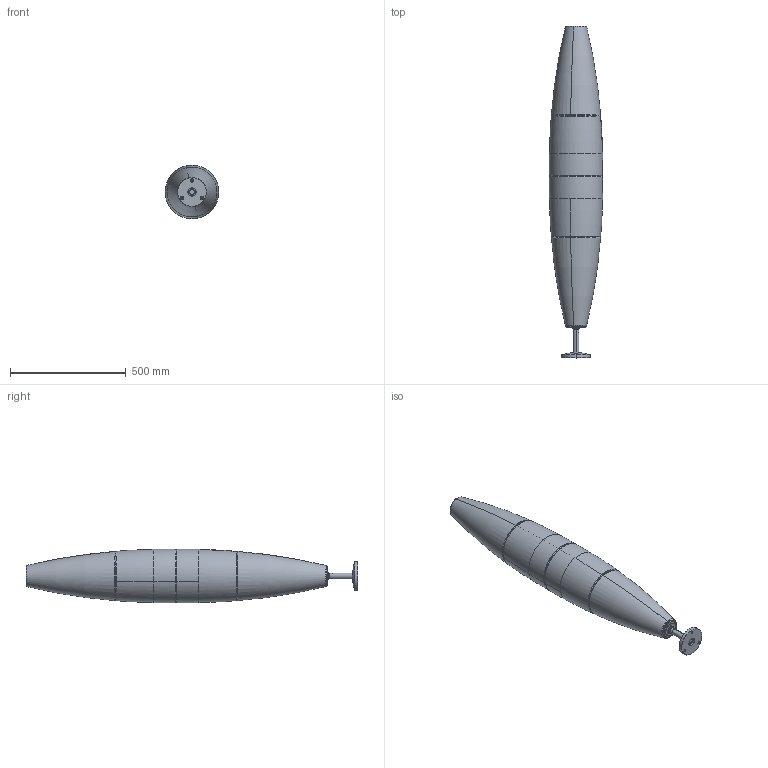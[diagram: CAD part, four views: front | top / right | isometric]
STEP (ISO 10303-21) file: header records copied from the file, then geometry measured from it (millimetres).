
FILE_DESCRIPTION (( 'STEP AP214' ), '1' );
FILE_NAME ('040_MONO-BASSA_OF_PL_3D.STEP', '2021-05-06T08:34:58', ( '' ), ( '' ), 'SwSTEP 2.0', 'SolidWorks 2021', '' );
FILE_SCHEMA (( 'AUTOMOTIVE_DESIGN' ));
Length unit declared in the file: millimetre
Products named in the file (1): 040_MONO-BASSA_OF_PL_3D
Bounding box: 231.38 x 1437 x 231.38 mm (x, y, z)
Volume: 2696717.3 mm3; surface area: 1651676 mm2
Topology: 5 solids, 5 shells, 391 faces, 931 edges, 552 vertices
Faces by surface type: bspline 106, cone 101, cylinder 92, torus 47, plane 40, sphere 5
Entity records: 56317 total; most frequent: CARTESIAN_POINT 43678, ORIENTED_EDGE 1828, DIRECTION 1628, EDGE_CURVE 914, AXIS2_PLACEMENT_3D 702, VERTEX_POINT 552, EDGE_LOOP 434, CIRCLE 416
